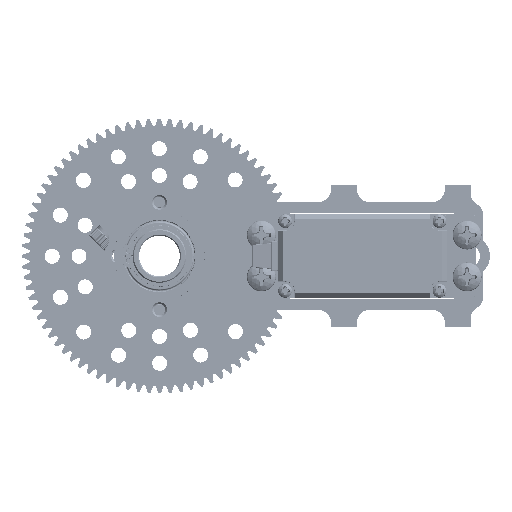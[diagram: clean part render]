
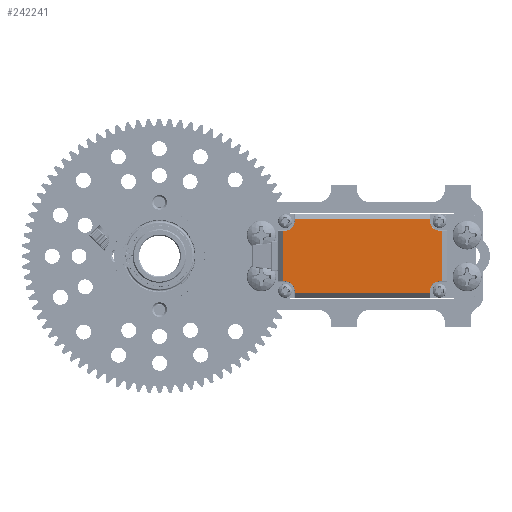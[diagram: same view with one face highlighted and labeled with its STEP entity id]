
A CAD part, front view. The second image highlights one B-rep face of the part: STEP entity #242241.
In plain terms, the highlighted planar face has unit normal (0, -1, 0).
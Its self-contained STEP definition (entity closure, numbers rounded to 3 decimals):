
#758 = VECTOR ( 'NONE', #121097, 1000. ) ;
#11085 = CARTESIAN_POINT ( 'NONE',  ( 18.335, -29.566, -6.7 ) ) ;
#11232 = AXIS2_PLACEMENT_3D ( 'NONE', #18594, #91069, #259226 ) ;
#11424 = ORIENTED_EDGE ( 'NONE', *, *, #302456, .T. ) ;
#16201 = LINE ( 'NONE', #304283, #249322 ) ;
#16409 = ORIENTED_EDGE ( 'NONE', *, *, #212486, .T. ) ;
#16820 = VECTOR ( 'NONE', #237420, 1000. ) ;
#18205 = CARTESIAN_POINT ( 'NONE',  ( -16.473, -29.566, -20.955 ) ) ;
#18594 = CARTESIAN_POINT ( 'NONE',  ( -18.729, -29.566, -4.445 ) ) ;
#18930 = EDGE_CURVE ( 'NONE', #193564, #258374, #209253, .T. ) ;
#20268 = ORIENTED_EDGE ( 'NONE', *, *, #186566, .T. ) ;
#20560 = CIRCLE ( 'NONE', #200352, 2.255 ) ;
#31565 = ORIENTED_EDGE ( 'NONE', *, *, #32756, .T. ) ;
#32756 = EDGE_CURVE ( 'NONE', #90872, #126115, #128638, .T. ) ;
#35442 = VECTOR ( 'NONE', #234022, 1000. ) ;
#36020 = LINE ( 'NONE', #225341, #284100 ) ;
#43974 = AXIS2_PLACEMENT_3D ( 'NONE', #187886, #65830, #233988 ) ;
#45003 = ORIENTED_EDGE ( 'NONE', *, *, #254571, .T. ) ;
#45894 = CARTESIAN_POINT ( 'NONE',  ( 17.822, -29.566, -6.7 ) ) ;
#46701 = DIRECTION ( 'NONE',  ( 0., 0., -1. ) ) ;
#48769 = CARTESIAN_POINT ( 'NONE',  ( 15.567, -29.566, -12.7 ) ) ;
#50707 = CARTESIAN_POINT ( 'NONE',  ( -0.453, -29.566, -18.7 ) ) ;
#57234 = CIRCLE ( 'NONE', #295651, 2.255 ) ;
#58252 = VECTOR ( 'NONE', #180097, 1000. ) ;
#61477 = CARTESIAN_POINT ( 'NONE',  ( -16.473, -29.566, -4.445 ) ) ;
#65680 = DIRECTION ( 'NONE',  ( 1., 0., 0. ) ) ;
#65830 = DIRECTION ( 'NONE',  ( 0., 1., 0. ) ) ;
#74839 = CIRCLE ( 'NONE', #11232, 2.255 ) ;
#76528 = VERTEX_POINT ( 'NONE', #186062 ) ;
#76998 = EDGE_CURVE ( 'NONE', #76528, #190399, #193665, .T. ) ;
#77312 = VECTOR ( 'NONE', #46701, 1000. ) ;
#80184 = DIRECTION ( 'NONE',  ( 0., 0., -1. ) ) ;
#81372 = VECTOR ( 'NONE', #102654, 1000. ) ;
#89999 = ORIENTED_EDGE ( 'NONE', *, *, #278967, .T. ) ;
#90872 = VERTEX_POINT ( 'NONE', #194999 ) ;
#91069 = DIRECTION ( 'NONE',  ( 0., 1., 0. ) ) ;
#94049 = EDGE_LOOP ( 'NONE', ( #216143, #137389, #199254, #247824, #16409, #31565, #124016, #300526, #45003, #89999, #222612, #294634, #167874, #111854, #20268, #11424 ) ) ;
#99455 = DIRECTION ( 'NONE',  ( 0., 0., -1. ) ) ;
#101591 = VERTEX_POINT ( 'NONE', #11085 ) ;
#102480 = CARTESIAN_POINT ( 'NONE',  ( -19.241, -29.566, -6.7 ) ) ;
#102654 = DIRECTION ( 'NONE',  ( -1., 0., 0. ) ) ;
#105245 = DIRECTION ( 'NONE',  ( 0., 1., 0. ) ) ;
#105653 = VERTEX_POINT ( 'NONE', #61477 ) ;
#105793 = DIRECTION ( 'NONE',  ( 0., 0., 1. ) ) ;
#106331 = EDGE_CURVE ( 'NONE', #105653, #193564, #74839, .T. ) ;
#106571 = DIRECTION ( 'NONE',  ( 0., 0., -1. ) ) ;
#111478 = CARTESIAN_POINT ( 'NONE',  ( 17.822, -29.566, -6.7 ) ) ;
#111854 = ORIENTED_EDGE ( 'NONE', *, *, #18930, .T. ) ;
#114064 = LINE ( 'NONE', #45894, #35442 ) ;
#119293 = LINE ( 'NONE', #161940, #243277 ) ;
#120164 = LINE ( 'NONE', #133799, #255509 ) ;
#121097 = DIRECTION ( 'NONE',  ( 1., 0., 0. ) ) ;
#121318 = CARTESIAN_POINT ( 'NONE',  ( -16.473, -29.566, -21.417 ) ) ;
#123128 = CARTESIAN_POINT ( 'NONE',  ( 15.567, -29.566, -4.445 ) ) ;
#124016 = ORIENTED_EDGE ( 'NONE', *, *, #241961, .T. ) ;
#125751 = LINE ( 'NONE', #285670, #16820 ) ;
#126115 = VERTEX_POINT ( 'NONE', #168261 ) ;
#128638 = LINE ( 'NONE', #50707, #758 ) ;
#129869 = VERTEX_POINT ( 'NONE', #257036 ) ;
#131883 = VERTEX_POINT ( 'NONE', #237062 ) ;
#132659 = EDGE_CURVE ( 'NONE', #131883, #105653, #120164, .T. ) ;
#133799 = CARTESIAN_POINT ( 'NONE',  ( -16.473, -29.566, -12.7 ) ) ;
#134573 = LINE ( 'NONE', #48769, #156947 ) ;
#137389 = ORIENTED_EDGE ( 'NONE', *, *, #244171, .T. ) ;
#138180 = VECTOR ( 'NONE', #105793, 1000. ) ;
#147879 = CARTESIAN_POINT ( 'NONE',  ( 17.822, -29.566, -4.445 ) ) ;
#156947 = VECTOR ( 'NONE', #263154, 1000. ) ;
#161940 = CARTESIAN_POINT ( 'NONE',  ( 15.567, -29.566, -3.975 ) ) ;
#163004 = DIRECTION ( 'NONE',  ( 0., 0., 1. ) ) ;
#167874 = ORIENTED_EDGE ( 'NONE', *, *, #106331, .T. ) ;
#168261 = CARTESIAN_POINT ( 'NONE',  ( 18.335, -29.566, -18.7 ) ) ;
#168691 = CARTESIAN_POINT ( 'NONE',  ( -16.473, -29.566, -21.425 ) ) ;
#172142 = FACE_OUTER_BOUND ( 'NONE', #94049, .T. ) ;
#175907 = DIRECTION ( 'NONE',  ( 0., 0., -1. ) ) ;
#176449 = CARTESIAN_POINT ( 'NONE',  ( 18.335, -29.566, -12.7 ) ) ;
#177067 = CARTESIAN_POINT ( 'NONE',  ( -0.453, -29.566, -3.983 ) ) ;
#179939 = CARTESIAN_POINT ( 'NONE',  ( -18.729, -29.566, -6.7 ) ) ;
#180097 = DIRECTION ( 'NONE',  ( -1., 0., 0. ) ) ;
#186062 = CARTESIAN_POINT ( 'NONE',  ( -18.729, -29.566, -18.7 ) ) ;
#186566 = EDGE_CURVE ( 'NONE', #258374, #265172, #125751, .T. ) ;
#187886 = CARTESIAN_POINT ( 'NONE',  ( -18.729, -29.566, -20.955 ) ) ;
#190399 = VERTEX_POINT ( 'NONE', #18205 ) ;
#193564 = VERTEX_POINT ( 'NONE', #179939 ) ;
#193665 = CIRCLE ( 'NONE', #43974, 2.255 ) ;
#194999 = CARTESIAN_POINT ( 'NONE',  ( 17.822, -29.566, -18.7 ) ) ;
#195066 = EDGE_CURVE ( 'NONE', #266858, #129869, #36020, .T. ) ;
#199254 = ORIENTED_EDGE ( 'NONE', *, *, #195066, .T. ) ;
#200352 = AXIS2_PLACEMENT_3D ( 'NONE', #147879, #240305, #99455 ) ;
#201531 = EDGE_CURVE ( 'NONE', #129869, #275623, #134573, .T. ) ;
#209253 = LINE ( 'NONE', #272774, #81372 ) ;
#212486 = EDGE_CURVE ( 'NONE', #275623, #90872, #57234, .T. ) ;
#216143 = ORIENTED_EDGE ( 'NONE', *, *, #76998, .T. ) ;
#217265 = LINE ( 'NONE', #176449, #138180 ) ;
#222157 = DIRECTION ( 'NONE',  ( 0., -1., 0. ) ) ;
#222366 = CARTESIAN_POINT ( 'NONE',  ( 15.567, -29.566, -3.983 ) ) ;
#222612 = ORIENTED_EDGE ( 'NONE', *, *, #244476, .T. ) ;
#222977 = VERTEX_POINT ( 'NONE', #123128 ) ;
#225341 = CARTESIAN_POINT ( 'NONE',  ( -0.453, -29.566, -21.417 ) ) ;
#233988 = DIRECTION ( 'NONE',  ( 0., 0., -1. ) ) ;
#234022 = DIRECTION ( 'NONE',  ( -1., 0., 0. ) ) ;
#236225 = AXIS2_PLACEMENT_3D ( 'NONE', #250329, #222157, #80184 ) ;
#237062 = CARTESIAN_POINT ( 'NONE',  ( -16.473, -29.566, -3.983 ) ) ;
#237420 = DIRECTION ( 'NONE',  ( 0., 0., -1. ) ) ;
#238910 = LINE ( 'NONE', #168691, #77312 ) ;
#240305 = DIRECTION ( 'NONE',  ( 0., 1., 0. ) ) ;
#241961 = EDGE_CURVE ( 'NONE', #126115, #101591, #217265, .T. ) ;
#242241 = ADVANCED_FACE ( 'NONE', ( #172142 ), #271416, .T. ) ;
#243277 = VECTOR ( 'NONE', #163004, 1000. ) ;
#244171 = EDGE_CURVE ( 'NONE', #190399, #266858, #238910, .T. ) ;
#244476 = EDGE_CURVE ( 'NONE', #293650, #131883, #276226, .T. ) ;
#246447 = EDGE_CURVE ( 'NONE', #101591, #304418, #114064, .T. ) ;
#247824 = ORIENTED_EDGE ( 'NONE', *, *, #201531, .T. ) ;
#249322 = VECTOR ( 'NONE', #65680, 1000. ) ;
#250329 = CARTESIAN_POINT ( 'NONE',  ( -0.453, -29.566, -12.7 ) ) ;
#251249 = CARTESIAN_POINT ( 'NONE',  ( 17.822, -29.566, -20.955 ) ) ;
#254571 = EDGE_CURVE ( 'NONE', #304418, #222977, #20560, .T. ) ;
#255509 = VECTOR ( 'NONE', #106571, 1000. ) ;
#257036 = CARTESIAN_POINT ( 'NONE',  ( 15.567, -29.566, -21.417 ) ) ;
#258374 = VERTEX_POINT ( 'NONE', #102480 ) ;
#259226 = DIRECTION ( 'NONE',  ( 0., 0., -1. ) ) ;
#263154 = DIRECTION ( 'NONE',  ( 0., 0., 1. ) ) ;
#265172 = VERTEX_POINT ( 'NONE', #312017 ) ;
#266858 = VERTEX_POINT ( 'NONE', #121318 ) ;
#271416 = PLANE ( 'NONE',  #236225 ) ;
#272774 = CARTESIAN_POINT ( 'NONE',  ( -0.453, -29.566, -6.7 ) ) ;
#275623 = VERTEX_POINT ( 'NONE', #306551 ) ;
#276226 = LINE ( 'NONE', #177067, #58252 ) ;
#278967 = EDGE_CURVE ( 'NONE', #222977, #293650, #119293, .T. ) ;
#284100 = VECTOR ( 'NONE', #298795, 1000. ) ;
#285670 = CARTESIAN_POINT ( 'NONE',  ( -19.241, -29.566, -12.7 ) ) ;
#293650 = VERTEX_POINT ( 'NONE', #222366 ) ;
#294634 = ORIENTED_EDGE ( 'NONE', *, *, #132659, .T. ) ;
#295651 = AXIS2_PLACEMENT_3D ( 'NONE', #251249, #105245, #175907 ) ;
#298795 = DIRECTION ( 'NONE',  ( 1., 0., 0. ) ) ;
#300526 = ORIENTED_EDGE ( 'NONE', *, *, #246447, .T. ) ;
#302456 = EDGE_CURVE ( 'NONE', #265172, #76528, #16201, .T. ) ;
#304283 = CARTESIAN_POINT ( 'NONE',  ( -18.729, -29.566, -18.7 ) ) ;
#304418 = VERTEX_POINT ( 'NONE', #111478 ) ;
#306551 = CARTESIAN_POINT ( 'NONE',  ( 15.567, -29.566, -20.955 ) ) ;
#312017 = CARTESIAN_POINT ( 'NONE',  ( -19.241, -29.566, -18.7 ) ) ;
